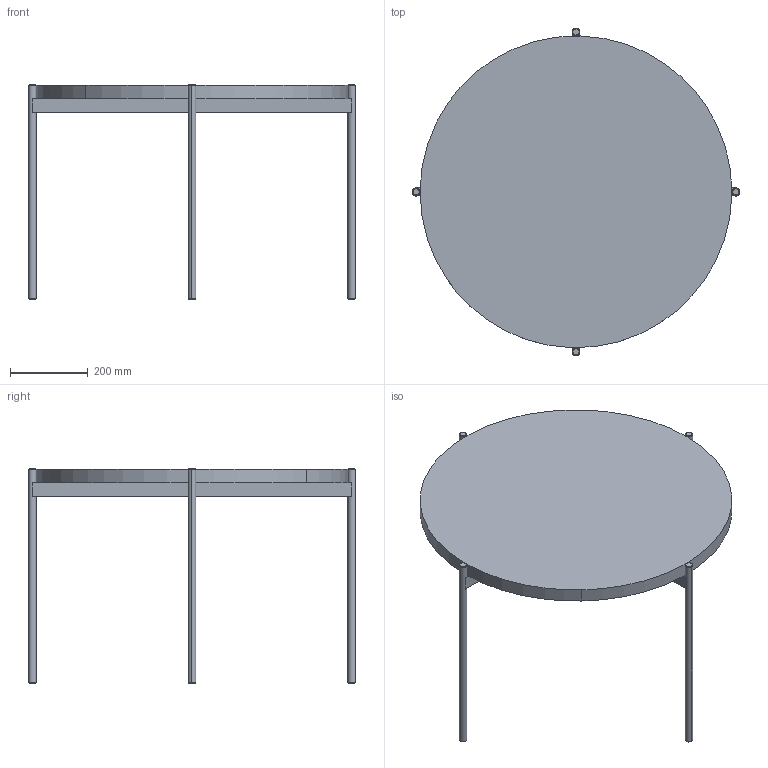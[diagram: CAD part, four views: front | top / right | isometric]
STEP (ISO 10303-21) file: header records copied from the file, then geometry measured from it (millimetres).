
FILE_DESCRIPTION(/* description */ (''),/* implementation_level */ '2;1');
FILE_NAME(/* name */ 'DQJ7KU~J',/* time_stamp */ '2022-08-18T08:04:30+02:00',/* author */ (''),/* organization */ (''),/* preprocessor_version */ 'ST-DEVELOPER v16.5',/* originating_system */ '',/* authorisation */ '');
FILE_SCHEMA (('AUTOMOTIVE_DESIGN'));
Length unit declared in the file: millimetre
Products named in the file (1): Document
Bounding box: 840 x 840 x 552 mm (x, y, z)
Volume: 19480449.1 mm3; surface area: 1418945.1 mm2
Topology: 7 solids, 7 shells, 48 faces, 87 edges, 53 vertices
Faces by surface type: bspline 26, plane 22
Entity records: 1289 total; most frequent: CARTESIAN_POINT 626, ORIENTED_EDGE 172, EDGE_CURVE 86, VERTEX_POINT 52, ADVANCED_FACE 48, FACE_OUTER_BOUND 48, EDGE_LOOP 48, B_SPLINE_CURVE_WITH_KNOTS 44
